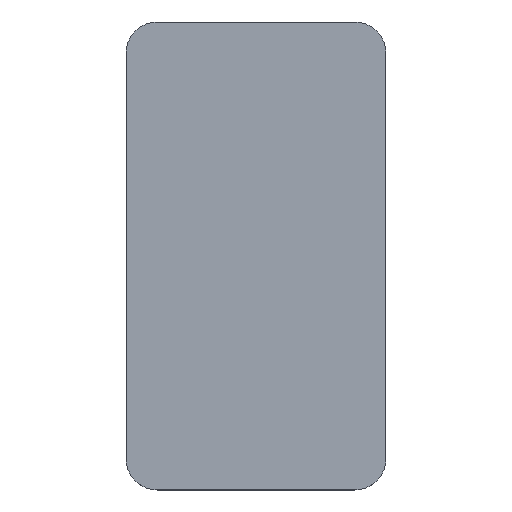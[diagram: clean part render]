
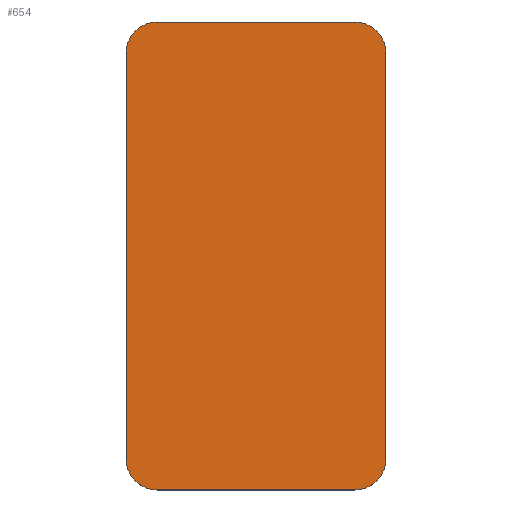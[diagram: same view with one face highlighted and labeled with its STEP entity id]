
A CAD part, top view. The second image highlights one B-rep face of the part: STEP entity #654.
In plain terms, the highlighted planar face has unit normal (0, 0, 1).
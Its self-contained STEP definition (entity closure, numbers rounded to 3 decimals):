
#24 = VERTEX_POINT('',#25);
#25 = CARTESIAN_POINT('',(-28.25,-5.95,-12.71));
#32 = PLANE('',#33);
#33 = AXIS2_PLACEMENT_3D('',#34,#35,#36);
#34 = CARTESIAN_POINT('',(-28.25,-5.95,-13.01));
#35 = DIRECTION('',(-1.,0.,0.));
#36 = DIRECTION('',(0.,1.,0.));
#44 = CYLINDRICAL_SURFACE('',#45,0.3);
#45 = AXIS2_PLACEMENT_3D('',#46,#47,#48);
#46 = CARTESIAN_POINT('',(-27.95,-5.95,-13.01));
#47 = DIRECTION('',(-0.,-0.,-1.));
#48 = DIRECTION('',(1.,0.,0.));
#56 = EDGE_CURVE('',#24,#57,#59,.T.);
#57 = VERTEX_POINT('',#58);
#58 = CARTESIAN_POINT('',(-28.25,-2.05,-12.71));
#59 = SURFACE_CURVE('',#60,(#64,#71),.PCURVE_S1.);
#60 = LINE('',#61,#62);
#61 = CARTESIAN_POINT('',(-28.25,-4.,-12.71));
#62 = VECTOR('',#63,1.);
#63 = DIRECTION('',(0.,1.,0.));
#64 = PCURVE('',#32,#65);
#65 = DEFINITIONAL_REPRESENTATION('',(#66),#70);
#66 = LINE('',#67,#68);
#67 = CARTESIAN_POINT('',(1.95,-0.3));
#68 = VECTOR('',#69,1.);
#69 = DIRECTION('',(1.,0.));
#70 = ( GEOMETRIC_REPRESENTATION_CONTEXT(2) 
PARAMETRIC_REPRESENTATION_CONTEXT() REPRESENTATION_CONTEXT('2D SPACE',''
  ) );
#71 = PCURVE('',#72,#77);
#72 = PLANE('',#73);
#73 = AXIS2_PLACEMENT_3D('',#74,#75,#76);
#74 = CARTESIAN_POINT('',(-27.,-4.,-12.71));
#75 = DIRECTION('',(0.,0.,1.));
#76 = DIRECTION('',(1.,0.,0.));
#77 = DEFINITIONAL_REPRESENTATION('',(#78),#82);
#78 = LINE('',#79,#80);
#79 = CARTESIAN_POINT('',(-1.25,0.));
#80 = VECTOR('',#81,1.);
#81 = DIRECTION('',(0.,1.));
#82 = ( GEOMETRIC_REPRESENTATION_CONTEXT(2) 
PARAMETRIC_REPRESENTATION_CONTEXT() REPRESENTATION_CONTEXT('2D SPACE',''
  ) );
#100 = CYLINDRICAL_SURFACE('',#101,0.3);
#101 = AXIS2_PLACEMENT_3D('',#102,#103,#104);
#102 = CARTESIAN_POINT('',(-27.95,-2.05,-13.01));
#103 = DIRECTION('',(-0.,-0.,-1.));
#104 = DIRECTION('',(1.,0.,0.));
#142 = EDGE_CURVE('',#24,#143,#145,.T.);
#143 = VERTEX_POINT('',#144);
#144 = CARTESIAN_POINT('',(-27.95,-6.25,-12.71));
#145 = SURFACE_CURVE('',#146,(#151,#158),.PCURVE_S1.);
#146 = CIRCLE('',#147,0.3);
#147 = AXIS2_PLACEMENT_3D('',#148,#149,#150);
#148 = CARTESIAN_POINT('',(-27.95,-5.95,-12.71));
#149 = DIRECTION('',(0.,0.,1.));
#150 = DIRECTION('',(1.,0.,0.));
#151 = PCURVE('',#44,#152);
#152 = DEFINITIONAL_REPRESENTATION('',(#153),#157);
#153 = LINE('',#154,#155);
#154 = CARTESIAN_POINT('',(-0.,-0.3));
#155 = VECTOR('',#156,1.);
#156 = DIRECTION('',(-1.,0.));
#157 = ( GEOMETRIC_REPRESENTATION_CONTEXT(2) 
PARAMETRIC_REPRESENTATION_CONTEXT() REPRESENTATION_CONTEXT('2D SPACE',''
  ) );
#158 = PCURVE('',#72,#159);
#159 = DEFINITIONAL_REPRESENTATION('',(#160),#164);
#160 = CIRCLE('',#161,0.3);
#161 = AXIS2_PLACEMENT_2D('',#162,#163);
#162 = CARTESIAN_POINT('',(-0.95,-1.95));
#163 = DIRECTION('',(1.,0.));
#164 = ( GEOMETRIC_REPRESENTATION_CONTEXT(2) 
PARAMETRIC_REPRESENTATION_CONTEXT() REPRESENTATION_CONTEXT('2D SPACE',''
  ) );
#182 = PLANE('',#183);
#183 = AXIS2_PLACEMENT_3D('',#184,#185,#186);
#184 = CARTESIAN_POINT('',(-27.95,-6.25,-13.01));
#185 = DIRECTION('',(0.,1.,0.));
#186 = DIRECTION('',(1.,0.,0.));
#220 = EDGE_CURVE('',#143,#221,#223,.T.);
#221 = VERTEX_POINT('',#222);
#222 = CARTESIAN_POINT('',(-26.05,-6.25,-12.71));
#223 = SURFACE_CURVE('',#224,(#228,#235),.PCURVE_S1.);
#224 = LINE('',#225,#226);
#225 = CARTESIAN_POINT('',(-27.,-6.25,-12.71));
#226 = VECTOR('',#227,1.);
#227 = DIRECTION('',(1.,0.,0.));
#228 = PCURVE('',#182,#229);
#229 = DEFINITIONAL_REPRESENTATION('',(#230),#234);
#230 = LINE('',#231,#232);
#231 = CARTESIAN_POINT('',(0.95,-0.3));
#232 = VECTOR('',#233,1.);
#233 = DIRECTION('',(1.,0.));
#234 = ( GEOMETRIC_REPRESENTATION_CONTEXT(2) 
PARAMETRIC_REPRESENTATION_CONTEXT() REPRESENTATION_CONTEXT('2D SPACE',''
  ) );
#235 = PCURVE('',#72,#236);
#236 = DEFINITIONAL_REPRESENTATION('',(#237),#241);
#237 = LINE('',#238,#239);
#238 = CARTESIAN_POINT('',(0.,-2.25));
#239 = VECTOR('',#240,1.);
#240 = DIRECTION('',(1.,0.));
#241 = ( GEOMETRIC_REPRESENTATION_CONTEXT(2) 
PARAMETRIC_REPRESENTATION_CONTEXT() REPRESENTATION_CONTEXT('2D SPACE',''
  ) );
#259 = CYLINDRICAL_SURFACE('',#260,0.3);
#260 = AXIS2_PLACEMENT_3D('',#261,#262,#263);
#261 = CARTESIAN_POINT('',(-26.05,-5.95,-13.01));
#262 = DIRECTION('',(-0.,-0.,-1.));
#263 = DIRECTION('',(1.,0.,0.));
#296 = EDGE_CURVE('',#221,#297,#299,.T.);
#297 = VERTEX_POINT('',#298);
#298 = CARTESIAN_POINT('',(-25.75,-5.95,-12.71));
#299 = SURFACE_CURVE('',#300,(#305,#312),.PCURVE_S1.);
#300 = CIRCLE('',#301,0.3);
#301 = AXIS2_PLACEMENT_3D('',#302,#303,#304);
#302 = CARTESIAN_POINT('',(-26.05,-5.95,-12.71));
#303 = DIRECTION('',(0.,0.,1.));
#304 = DIRECTION('',(1.,0.,0.));
#305 = PCURVE('',#259,#306);
#306 = DEFINITIONAL_REPRESENTATION('',(#307),#311);
#307 = LINE('',#308,#309);
#308 = CARTESIAN_POINT('',(-0.,-0.3));
#309 = VECTOR('',#310,1.);
#310 = DIRECTION('',(-1.,0.));
#311 = ( GEOMETRIC_REPRESENTATION_CONTEXT(2) 
PARAMETRIC_REPRESENTATION_CONTEXT() REPRESENTATION_CONTEXT('2D SPACE',''
  ) );
#312 = PCURVE('',#72,#313);
#313 = DEFINITIONAL_REPRESENTATION('',(#314),#318);
#314 = CIRCLE('',#315,0.3);
#315 = AXIS2_PLACEMENT_2D('',#316,#317);
#316 = CARTESIAN_POINT('',(0.95,-1.95));
#317 = DIRECTION('',(1.,0.));
#318 = ( GEOMETRIC_REPRESENTATION_CONTEXT(2) 
PARAMETRIC_REPRESENTATION_CONTEXT() REPRESENTATION_CONTEXT('2D SPACE',''
  ) );
#336 = PLANE('',#337);
#337 = AXIS2_PLACEMENT_3D('',#338,#339,#340);
#338 = CARTESIAN_POINT('',(-25.75,-5.95,-13.01));
#339 = DIRECTION('',(-1.,0.,0.));
#340 = DIRECTION('',(0.,1.,0.));
#374 = EDGE_CURVE('',#297,#375,#377,.T.);
#375 = VERTEX_POINT('',#376);
#376 = CARTESIAN_POINT('',(-25.75,-2.05,-12.71));
#377 = SURFACE_CURVE('',#378,(#382,#389),.PCURVE_S1.);
#378 = LINE('',#379,#380);
#379 = CARTESIAN_POINT('',(-25.75,-4.,-12.71));
#380 = VECTOR('',#381,1.);
#381 = DIRECTION('',(0.,1.,0.));
#382 = PCURVE('',#336,#383);
#383 = DEFINITIONAL_REPRESENTATION('',(#384),#388);
#384 = LINE('',#385,#386);
#385 = CARTESIAN_POINT('',(1.95,-0.3));
#386 = VECTOR('',#387,1.);
#387 = DIRECTION('',(1.,0.));
#388 = ( GEOMETRIC_REPRESENTATION_CONTEXT(2) 
PARAMETRIC_REPRESENTATION_CONTEXT() REPRESENTATION_CONTEXT('2D SPACE',''
  ) );
#389 = PCURVE('',#72,#390);
#390 = DEFINITIONAL_REPRESENTATION('',(#391),#395);
#391 = LINE('',#392,#393);
#392 = CARTESIAN_POINT('',(1.25,0.));
#393 = VECTOR('',#394,1.);
#394 = DIRECTION('',(0.,1.));
#395 = ( GEOMETRIC_REPRESENTATION_CONTEXT(2) 
PARAMETRIC_REPRESENTATION_CONTEXT() REPRESENTATION_CONTEXT('2D SPACE',''
  ) );
#413 = CYLINDRICAL_SURFACE('',#414,0.3);
#414 = AXIS2_PLACEMENT_3D('',#415,#416,#417);
#415 = CARTESIAN_POINT('',(-26.05,-2.05,-13.01));
#416 = DIRECTION('',(-0.,-0.,-1.));
#417 = DIRECTION('',(1.,0.,0.));
#450 = EDGE_CURVE('',#375,#451,#453,.T.);
#451 = VERTEX_POINT('',#452);
#452 = CARTESIAN_POINT('',(-26.05,-1.75,-12.71));
#453 = SURFACE_CURVE('',#454,(#459,#466),.PCURVE_S1.);
#454 = CIRCLE('',#455,0.3);
#455 = AXIS2_PLACEMENT_3D('',#456,#457,#458);
#456 = CARTESIAN_POINT('',(-26.05,-2.05,-12.71));
#457 = DIRECTION('',(0.,0.,1.));
#458 = DIRECTION('',(1.,0.,0.));
#459 = PCURVE('',#413,#460);
#460 = DEFINITIONAL_REPRESENTATION('',(#461),#465);
#461 = LINE('',#462,#463);
#462 = CARTESIAN_POINT('',(-0.,-0.3));
#463 = VECTOR('',#464,1.);
#464 = DIRECTION('',(-1.,0.));
#465 = ( GEOMETRIC_REPRESENTATION_CONTEXT(2) 
PARAMETRIC_REPRESENTATION_CONTEXT() REPRESENTATION_CONTEXT('2D SPACE',''
  ) );
#466 = PCURVE('',#72,#467);
#467 = DEFINITIONAL_REPRESENTATION('',(#468),#472);
#468 = CIRCLE('',#469,0.3);
#469 = AXIS2_PLACEMENT_2D('',#470,#471);
#470 = CARTESIAN_POINT('',(0.95,1.95));
#471 = DIRECTION('',(1.,0.));
#472 = ( GEOMETRIC_REPRESENTATION_CONTEXT(2) 
PARAMETRIC_REPRESENTATION_CONTEXT() REPRESENTATION_CONTEXT('2D SPACE',''
  ) );
#490 = PLANE('',#491);
#491 = AXIS2_PLACEMENT_3D('',#492,#493,#494);
#492 = CARTESIAN_POINT('',(-27.95,-1.75,-13.01));
#493 = DIRECTION('',(0.,1.,0.));
#494 = DIRECTION('',(1.,0.,0.));
#530 = VERTEX_POINT('',#531);
#531 = CARTESIAN_POINT('',(-27.95,-1.75,-12.71));
#552 = EDGE_CURVE('',#530,#451,#553,.T.);
#553 = SURFACE_CURVE('',#554,(#558,#565),.PCURVE_S1.);
#554 = LINE('',#555,#556);
#555 = CARTESIAN_POINT('',(-27.,-1.75,-12.71));
#556 = VECTOR('',#557,1.);
#557 = DIRECTION('',(1.,0.,0.));
#558 = PCURVE('',#490,#559);
#559 = DEFINITIONAL_REPRESENTATION('',(#560),#564);
#560 = LINE('',#561,#562);
#561 = CARTESIAN_POINT('',(0.95,-0.3));
#562 = VECTOR('',#563,1.);
#563 = DIRECTION('',(1.,0.));
#564 = ( GEOMETRIC_REPRESENTATION_CONTEXT(2) 
PARAMETRIC_REPRESENTATION_CONTEXT() REPRESENTATION_CONTEXT('2D SPACE',''
  ) );
#565 = PCURVE('',#72,#566);
#566 = DEFINITIONAL_REPRESENTATION('',(#567),#571);
#567 = LINE('',#568,#569);
#568 = CARTESIAN_POINT('',(0.,2.25));
#569 = VECTOR('',#570,1.);
#570 = DIRECTION('',(1.,0.));
#571 = ( GEOMETRIC_REPRESENTATION_CONTEXT(2) 
PARAMETRIC_REPRESENTATION_CONTEXT() REPRESENTATION_CONTEXT('2D SPACE',''
  ) );
#599 = EDGE_CURVE('',#530,#57,#600,.T.);
#600 = SURFACE_CURVE('',#601,(#606,#613),.PCURVE_S1.);
#601 = CIRCLE('',#602,0.3);
#602 = AXIS2_PLACEMENT_3D('',#603,#604,#605);
#603 = CARTESIAN_POINT('',(-27.95,-2.05,-12.71));
#604 = DIRECTION('',(0.,0.,1.));
#605 = DIRECTION('',(1.,0.,0.));
#606 = PCURVE('',#100,#607);
#607 = DEFINITIONAL_REPRESENTATION('',(#608),#612);
#608 = LINE('',#609,#610);
#609 = CARTESIAN_POINT('',(-0.,-0.3));
#610 = VECTOR('',#611,1.);
#611 = DIRECTION('',(-1.,0.));
#612 = ( GEOMETRIC_REPRESENTATION_CONTEXT(2) 
PARAMETRIC_REPRESENTATION_CONTEXT() REPRESENTATION_CONTEXT('2D SPACE',''
  ) );
#613 = PCURVE('',#72,#614);
#614 = DEFINITIONAL_REPRESENTATION('',(#615),#619);
#615 = CIRCLE('',#616,0.3);
#616 = AXIS2_PLACEMENT_2D('',#617,#618);
#617 = CARTESIAN_POINT('',(-0.95,1.95));
#618 = DIRECTION('',(1.,0.));
#619 = ( GEOMETRIC_REPRESENTATION_CONTEXT(2) 
PARAMETRIC_REPRESENTATION_CONTEXT() REPRESENTATION_CONTEXT('2D SPACE',''
  ) );
#654 = ADVANCED_FACE('',(#655),#72,.T.);
#655 = FACE_BOUND('',#656,.T.);
#656 = EDGE_LOOP('',(#657,#658,#659,#660,#661,#662,#663,#664));
#657 = ORIENTED_EDGE('',*,*,#56,.F.);
#658 = ORIENTED_EDGE('',*,*,#142,.T.);
#659 = ORIENTED_EDGE('',*,*,#220,.T.);
#660 = ORIENTED_EDGE('',*,*,#296,.T.);
#661 = ORIENTED_EDGE('',*,*,#374,.T.);
#662 = ORIENTED_EDGE('',*,*,#450,.T.);
#663 = ORIENTED_EDGE('',*,*,#552,.F.);
#664 = ORIENTED_EDGE('',*,*,#599,.T.);
